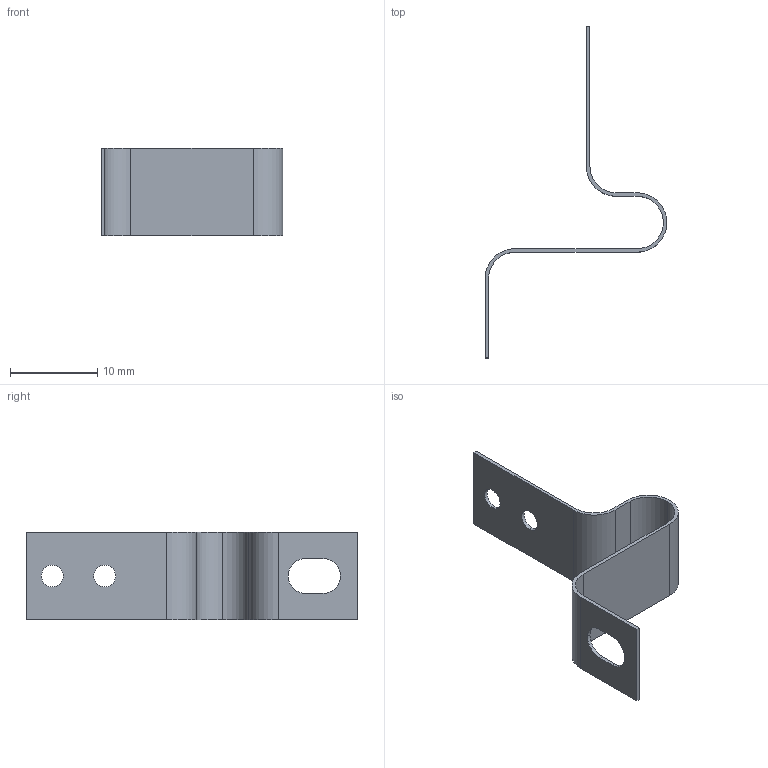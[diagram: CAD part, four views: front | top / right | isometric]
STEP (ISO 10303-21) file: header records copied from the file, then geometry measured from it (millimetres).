
FILE_DESCRIPTION (( 'STEP AP214' ), '1' );
FILE_NAME ('8.0010.4G00.0000.STEP', '2008-10-16T08:55:39', ( 'admin' ), ( 'Fritz Kübler GmbH' ), 'SwSTEP 2.0', 'SolidWorks 2008', '' );
FILE_SCHEMA (( 'AUTOMOTIVE_DESIGN' ));
Length unit declared in the file: millimetre
Products named in the file (1): 8.0010.4G00.0000
Bounding box: 20.8 x 38 x 10 mm (x, y, z)
Volume: 234.7 mm3; surface area: 1243.6 mm2
Topology: 1 solids, 1 shells, 30 faces, 84 edges, 56 vertices
Faces by surface type: cylinder 16, plane 14
Entity records: 1015 total; most frequent: DIRECTION 178, CARTESIAN_POINT 171, ORIENTED_EDGE 168, EDGE_CURVE 84, AXIS2_PLACEMENT_3D 63, VERTEX_POINT 56, LINE 52, VECTOR 52
